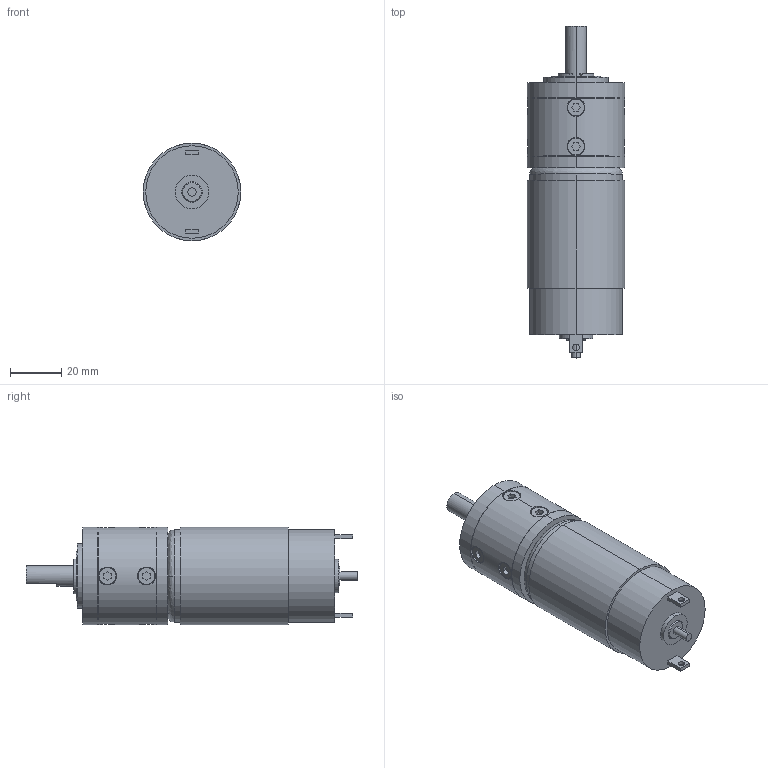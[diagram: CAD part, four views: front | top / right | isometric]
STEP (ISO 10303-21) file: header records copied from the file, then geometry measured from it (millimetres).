
FILE_DESCRIPTION((''),' ');
FILE_NAME('DSMP380_1.stp',' ',('R. Lindner'),('MSW GmbH'),' ','ACIS 14.0',' ');
FILE_SCHEMA(('automotive_design'));
Length unit declared in the file: inch
Products named in the file (175): DSMP380_1
Bounding box: 38 x 129.17 x 38 mm (x, y, z)
Surface area: 17003.1 mm2 (no closed solid volume)
Topology: 0 solids, 176 shells, 176 faces, 840 edges, 840 vertices
Faces by surface type: plane 98, cylinder 70, cone 6, bspline 2
Entity records: 15578 total; most frequent: CARTESIAN_POINT 3139, DIRECTION 1732, ORIENTED_EDGE 840, EDGE_CURVE 840, VERTEX_POINT 840, AXIS2_PLACEMENT_3D 593, LINE 546, VECTOR 546
